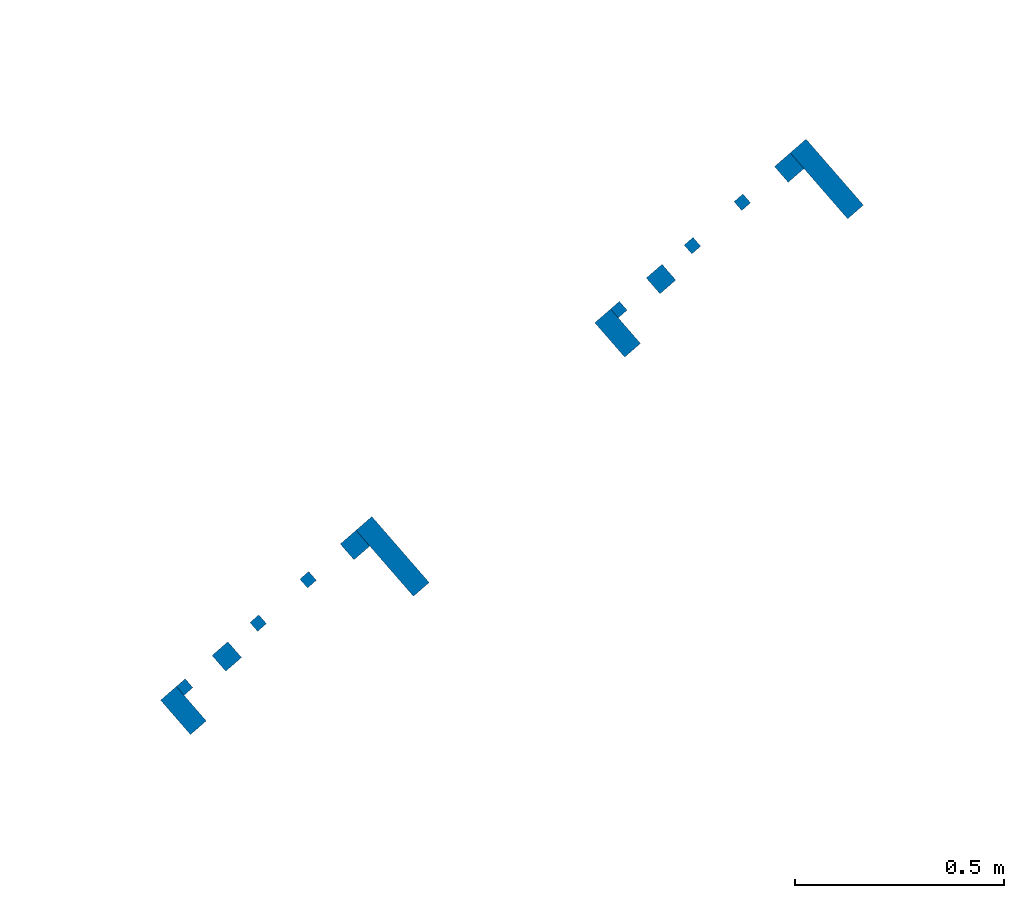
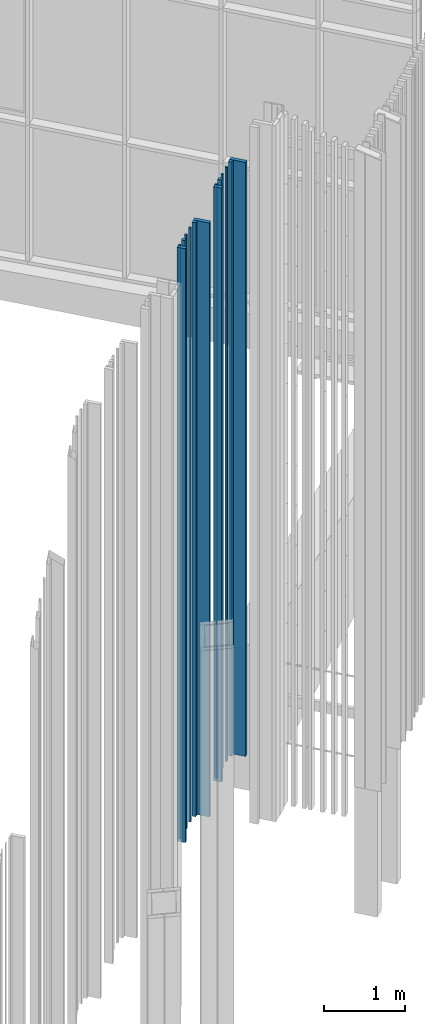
# One storey, part 268 of 390: 14 walls.
"""IFC2X3 building model written with IfcOpenShell, lengths in millimetres."""

from ifc_helpers import new_model, entity, si_unit, converted_unit, derived_unit, money_unit, direction, frame, origin_with_axes, place, context, subcontext, project, spatial, faceted_brep, material, type_object, element, save


model = new_model("IFC2X3")

# Units and contexts
model_context = context("Model", 3, precision=1e-05, world=origin_with_axes(), true_north=direction((0.0, 1.0)))
body_context = subcontext(model_context, "Body", "Model", "MODEL_VIEW")
ifc_project = project(units=[si_unit("LENGTHUNIT", "METRE", prefix="MILLI"), si_unit("AREAUNIT", "SQUARE_METRE"), si_unit("VOLUMEUNIT", "CUBIC_METRE"), converted_unit("PLANEANGLEUNIT", "DEGREE", entity("IfcPlaneAngleMeasure", 0.0174532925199), si_unit("PLANEANGLEUNIT", "RADIAN"), dimensions=[0, 0, 0, 0, 0, 0, 0]), si_unit("SOLIDANGLEUNIT", "STERADIAN"), money_unit("EUR"), converted_unit("TIMEUNIT", "Year", entity("IfcTimeMeasure", 31556926.0), si_unit("TIMEUNIT", "SECOND"), dimensions=[0, 0, 1, 0, 0, 0, 0]), si_unit("MASSUNIT", "GRAM", prefix="KILO"), si_unit("THERMODYNAMICTEMPERATUREUNIT", "DEGREE_CELSIUS"), si_unit("LUMINOUSINTENSITYUNIT", "LUMEN"), si_unit("ENERGYUNIT", "JOULE", prefix="MEGA"), derived_unit("THERMALCONDUCTANCEUNIT", [(si_unit("POWERUNIT", "WATT"), 1), (si_unit("LENGTHUNIT", "METRE"), -1), (si_unit("THERMODYNAMICTEMPERATUREUNIT", "KELVIN"), -1)]), derived_unit("SPECIFICHEATCAPACITYUNIT", [(si_unit("ENERGYUNIT", "JOULE"), 1), (si_unit("MASSUNIT", "GRAM", prefix="KILO"), -1), (si_unit("THERMODYNAMICTEMPERATUREUNIT", "KELVIN"), -1)]), derived_unit("MASSDENSITYUNIT", [(si_unit("MASSUNIT", "GRAM", prefix="KILO"), 1), (si_unit("VOLUMEUNIT", "CUBIC_METRE"), -1)])], contexts=[model_context])

# Site, building, storey
site_placement = place(None, origin_with_axes())
site = spatial("IfcSite", under=ifc_project, at=site_placement, Name="Site", CompositionType="ELEMENT")
building_placement = place(site_placement, origin_with_axes())
building = spatial("IfcBuilding", under=site, at=building_placement, Name="Building", CompositionType="ELEMENT")
storey_placement = place(building_placement, origin_with_axes())
storey = spatial("IfcBuildingStorey", under=building, at=storey_placement, Name="1 korrus", CompositionType="ELEMENT", Elevation=0.0)

# Walls
ifc_material = material(Name="Site specified")
wall_type = type_object("IfcWallType", Name="Puitfassaadi ribistik", PredefinedType="NOTDEFINED")
wall_1_placement = place(storey_placement, frame((170290.601505, 92676.553262, 935.0), z_axis=(0.0, 0.0, 1.0), x_axis=(-0.754709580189, -0.65605902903, 0.0)))
element("IfcWall", 1, at=wall_1_placement, inside=storey, type_object=wall_type, material=ifc_material, Name="Site specified", context=body_context, shape_type="Brep", body=[
    faceted_brep([(-14.0, -14.0, 8930.0), (-14.0, -14.0, 0.0), (14.0, -14.0, 0.0), (14.0, -14.0, 8930.0), (-14.0, 14.0, 8930.0), (-14.0, 14.0, 0.0), (14.0, 14.0, 0.0), (14.0, 14.0, 8930.0)], [[[0, 1, 2, 3]], [[4, 5, 1, 0]], [[2, 1, 5, 6]], [[3, 2, 6, 7]], [[4, 0, 3, 7]], [[7, 6, 5, 4]]]),
])
wall_2_placement = place(storey_placement, frame((170215.55481, 92596.7410225, 935.0), z_axis=(0.0, 0.0, 1.0), x_axis=(-0.754709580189, -0.65605902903, 0.0)))
element("IfcWall", 2, at=wall_2_placement, inside=storey, type_object=wall_type, material=ifc_material, Name="Site specified", context=body_context, shape_type="Brep", body=[
    faceted_brep([(-25.0, -25.0, 8930.0), (-25.0, -25.0, 0.0), (25.0, -25.0, 0.0), (25.0, -25.0, 8930.0), (-25.0, 25.0, 8930.0), (-25.0, 25.0, 0.0), (25.0, 25.0, 0.0), (25.0, 25.0, 8930.0)], [[[0, 1, 2, 3]], [[4, 5, 1, 0]], [[2, 1, 5, 6]], [[3, 2, 6, 7]], [[4, 0, 3, 7]], [[7, 6, 5, 4]]]),
])
wall_3_placement = place(storey_placement, frame((170409.845619, 92780.2105886, 935.0), z_axis=(0.0, 0.0, 1.0), x_axis=(-0.754709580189, -0.65605902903, 0.0)))
element("IfcWall", 3, at=wall_3_placement, inside=storey, type_object=wall_type, material=ifc_material, Name="Site specified", context=body_context, shape_type="Brep", body=[
    faceted_brep([(-14.0, -14.0, 8930.0), (-14.0, -14.0, 0.0), (14.0, -14.0, 0.0), (14.0, -14.0, 8930.0), (-14.0, 14.0, 8930.0), (-14.0, 14.0, 0.0), (14.0, 14.0, 0.0), (14.0, 14.0, 8930.0)], [[[0, 1, 2, 3]], [[4, 5, 1, 0]], [[2, 1, 5, 6]], [[3, 2, 6, 7]], [[4, 0, 3, 7]], [[7, 6, 5, 4]]]),
])
wall_4_placement = place(storey_placement, frame((170521.9669, 92863.1009883, 935.0), z_axis=(0.0, 0.0, 1.0), x_axis=(-0.754709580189, -0.65605902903, 0.0)))
element("IfcWall", 4, at=wall_4_placement, inside=storey, type_object=wall_type, material=ifc_material, Name="Site specified", context=body_context, shape_type="Brep", body=[
    faceted_brep([(-25.0, -25.0, 8930.0), (-25.0, -25.0, 0.0), (25.0, -25.0, 0.0), (25.0, -25.0, 8930.0), (-25.0, 25.0, 8930.0), (-25.0, 25.0, 0.0), (25.0, 25.0, 0.0), (25.0, 25.0, 8930.0)], [[[0, 1, 2, 3]], [[4, 5, 1, 0]], [[2, 1, 5, 6]], [[3, 2, 6, 7]], [[4, 0, 3, 7]], [[7, 6, 5, 4]]]),
])
wall_5_placement = place(storey_placement, frame((170111.89089, 92467.5394681, 935.0), z_axis=(0.0, 0.0, 1.0), x_axis=(-0.754709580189, -0.65605902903, 0.0)))
element("IfcWall", 5, at=wall_5_placement, inside=storey, type_object=wall_type, material=ifc_material, Name="Site specified", context=body_context, shape_type="Brep", body=[
    faceted_brep([(-25.0, -54.5, 8930.0), (-25.0, -54.5, 0.0), (25.0, -54.5, 0.0), (25.0, -54.5, 8930.0), (-25.0, 54.5, 8930.0), (-25.0, 54.5, 0.0), (25.0, 54.5, 0.0), (25.0, 54.5, 8930.0)], [[[0, 1, 2, 3]], [[4, 5, 1, 0]], [[2, 1, 5, 6]], [[3, 2, 6, 7]], [[4, 0, 3, 7]], [[7, 6, 5, 4]]]),
])
wall_6_placement = place(storey_placement, frame((170611.859071, 92835.9045281, 935.0), z_axis=(0.0, 0.0, 1.0), x_axis=(-0.754709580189, -0.65605902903, 0.0)))
element("IfcWall", 6, at=wall_6_placement, inside=storey, type_object=wall_type, material=ifc_material, Name="Site specified", context=body_context, shape_type="Brep", body=[
    faceted_brep([(-25.0, -104.5, 8930.0), (-25.0, -104.5, 0.0), (25.0, -104.5, 0.0), (25.0, -104.5, 8930.0), (-25.0, 104.5, 8930.0), (-25.0, 104.5, 0.0), (25.0, 104.5, 0.0), (25.0, 104.5, 8930.0)], [[[0, 1, 2, 3]], [[4, 5, 1, 0]], [[2, 1, 5, 6]], [[3, 2, 6, 7]], [[4, 0, 3, 7]], [[7, 6, 5, 4]]]),
])
wall_7_placement = place(storey_placement, frame((170114.754173, 92523.6915083, 935.0), z_axis=(0.0, 0.0, 1.0), x_axis=(-0.754709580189, -0.65605902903, 0.0)))
element("IfcWall", 7, at=wall_7_placement, inside=storey, type_object=wall_type, material=ifc_material, Name="Site specified", context=body_context, shape_type="Brep", body=[
    faceted_brep([(-14.0, -14.0, 8930.0), (-14.0, -14.0, 0.0), (14.0, -14.0, 0.0), (14.0, -14.0, 8930.0), (-14.0, 14.0, 8930.0), (-14.0, 14.0, 0.0), (14.0, 14.0, 0.0), (14.0, 14.0, 8930.0)], [[[0, 1, 2, 3]], [[4, 5, 1, 0]], [[2, 1, 5, 6]], [[3, 2, 6, 7]], [[4, 0, 3, 7]], [[7, 6, 5, 4]]]),
])
wall_8_placement = place(storey_placement, frame((171649.584744, 93737.985693, 935.0), z_axis=(0.0, 0.0, 1.0), x_axis=(-0.754709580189, -0.65605902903, 0.0)))
element("IfcWall", 8, at=wall_8_placement, inside=storey, type_object=wall_type, material=ifc_material, Name="Site specified", context=body_context, shape_type="Brep", body=[
    faceted_brep([(-25.0, -104.5, 8930.0), (-25.0, -104.5, 0.0), (25.0, -104.5, 0.0), (25.0, -104.5, 8930.0), (-25.0, 104.5, 8930.0), (-25.0, 104.5, 0.0), (25.0, 104.5, 0.0), (25.0, 104.5, 8930.0)], [[[0, 1, 2, 3]], [[4, 5, 1, 0]], [[2, 1, 5, 6]], [[3, 2, 6, 7]], [[4, 0, 3, 7]], [[7, 6, 5, 4]]]),
])
wall_9_placement = place(storey_placement, frame((171149.616563, 93369.6206331, 935.0), z_axis=(0.0, 0.0, 1.0), x_axis=(-0.754709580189, -0.65605902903, 0.0)))
element("IfcWall", 9, at=wall_9_placement, inside=storey, type_object=wall_type, material=ifc_material, Name="Site specified", context=body_context, shape_type="Brep", body=[
    faceted_brep([(-25.0, -54.5, 8930.0), (-25.0, -54.5, 0.0), (25.0, -54.5, 0.0), (25.0, -54.5, 8930.0), (-25.0, 54.5, 8930.0), (-25.0, 54.5, 0.0), (25.0, 54.5, 0.0), (25.0, 54.5, 8930.0)], [[[0, 1, 2, 3]], [[4, 5, 1, 0]], [[2, 1, 5, 6]], [[3, 2, 6, 7]], [[4, 0, 3, 7]], [[7, 6, 5, 4]]]),
])
for number, where, z_axis, x_axis, name in (
    (10, (171152.479846, 93425.7726732, 935.0), (0.0, 0.0, 1.0), (-0.754709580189, -0.65605902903, 0.0), "Site specified"),
    (11, (171328.327178, 93578.634427, 935.0), (0.0, 0.0, 1.0), (-0.754709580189, -0.65605902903, 0.0), "Site specified"),
):
    element("IfcWall", number, at=place(storey_placement, frame(where, z_axis=z_axis, x_axis=x_axis)), inside=storey, type_object=wall_type, material=ifc_material, Name=name, context=body_context, shape_type="Brep", body=[
        faceted_brep([(-14.0, -14.0, 8930.0), (-14.0, -14.0, 0.0), (14.0, -14.0, 0.0), (14.0, -14.0, 8930.0), (-14.0, 14.0, 8930.0), (-14.0, 14.0, 0.0), (14.0, 14.0, 0.0), (14.0, 14.0, 8930.0)], [[[0, 1, 2, 3]], [[4, 5, 1, 0]], [[2, 1, 5, 6]], [[3, 2, 6, 7]], [[4, 0, 3, 7]], [[7, 6, 5, 4]]]),
    ])
for number, where, z_axis, x_axis, name in (
    (12, (171559.692572, 93765.1821532, 935.0), (0.0, 0.0, 1.0), (-0.754709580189, -0.65605902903, 0.0), "Site specified"),
    (13, (171253.280483, 93498.8221874, 935.0), (0.0, 0.0, 1.0), (-0.754709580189, -0.65605902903, 0.0), "Site specified"),
):
    element("IfcWall", number, at=place(storey_placement, frame(where, z_axis=z_axis, x_axis=x_axis)), inside=storey, type_object=wall_type, material=ifc_material, Name=name, context=body_context, shape_type="Brep", body=[
        faceted_brep([(-25.0, -25.0, 8930.0), (-25.0, -25.0, 0.0), (25.0, -25.0, 0.0), (25.0, -25.0, 8930.0), (-25.0, 25.0, 8930.0), (-25.0, 25.0, 0.0), (25.0, 25.0, 0.0), (25.0, 25.0, 8930.0)], [[[0, 1, 2, 3]], [[4, 5, 1, 0]], [[2, 1, 5, 6]], [[3, 2, 6, 7]], [[4, 0, 3, 7]], [[7, 6, 5, 4]]]),
    ])
wall_10_placement = place(storey_placement, frame((171447.571291, 93682.2917536, 935.0), z_axis=(0.0, 0.0, 1.0), x_axis=(-0.754709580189, -0.65605902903, 0.0)))
element("IfcWall", 14, at=wall_10_placement, inside=storey, type_object=wall_type, material=ifc_material, Name="Site specified", context=body_context, shape_type="Brep", body=[
    faceted_brep([(-14.0, -14.0, 8930.0), (-14.0, -14.0, 0.0), (14.0, -14.0, 0.0), (14.0, -14.0, 8930.0), (-14.0, 14.0, 8930.0), (-14.0, 14.0, 0.0), (14.0, 14.0, 0.0), (14.0, 14.0, 8930.0)], [[[0, 1, 2, 3]], [[4, 5, 1, 0]], [[2, 1, 5, 6]], [[3, 2, 6, 7]], [[4, 0, 3, 7]], [[7, 6, 5, 4]]]),
])

save(model, "model.ifc")
